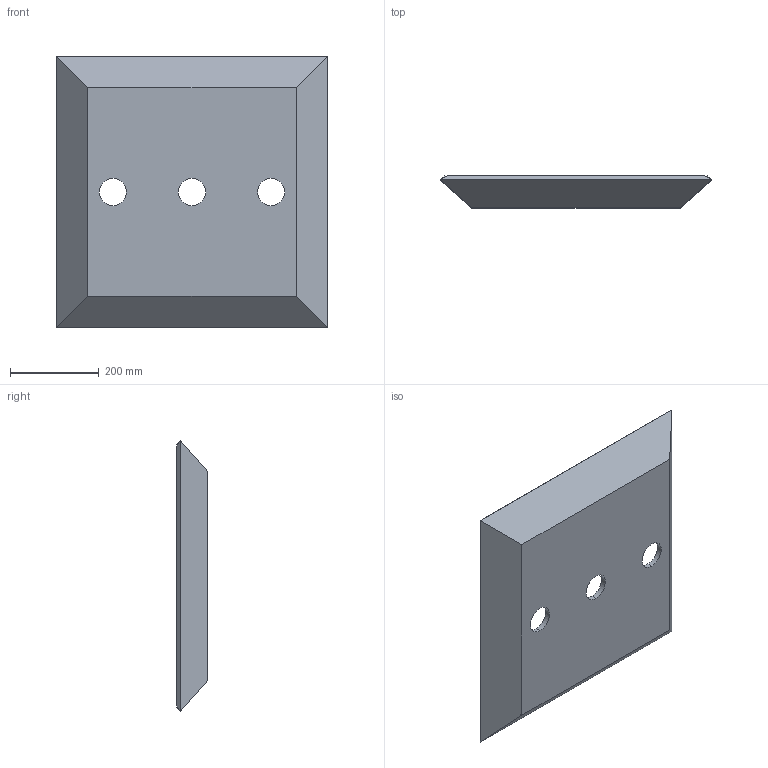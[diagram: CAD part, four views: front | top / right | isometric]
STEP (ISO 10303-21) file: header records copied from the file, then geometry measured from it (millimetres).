
FILE_DESCRIPTION (( 'STEP AP214' ), '1' );
FILE_NAME ('Spot Flood - Triple - 3 In Deep Assembly - V5.STEP', '2022-08-02T15:28:20', ( '' ), ( '' ), 'SwSTEP 2.0', 'SolidWorks 2020', '' );
FILE_SCHEMA (( 'AUTOMOTIVE_DESIGN' ));
Length unit declared in the file: inch
Products named in the file (3): 3 In Deep Extruded Tile Side - V5; Spot Flood - Triple - 3 In Deep Assembly - V5; Spot Flood - Triple - 3 In Deep Top - V5
Assembly tree (5 placements, depth 2):
  Spot Flood - Triple - 3 In Deep Assembly - V5
    Spot Flood - Triple - 3 In Deep Top - V5
    3 In Deep Extruded Tile Side - V5  x4
Bounding box: 609.6 x 71.4 x 609.6 mm (x, y, z)
Volume: 4662940.6 mm3; surface area: 886954.4 mm2
Topology: 5 solids, 5 shells, 36 faces, 78 edges, 52 vertices
Faces by surface type: plane 30, cylinder 6
Entity records: 678 total; most frequent: DIRECTION 106, CARTESIAN_POINT 96, ORIENTED_EDGE 84, EDGE_CURVE 42, AXIS2_PLACEMENT_3D 38, LINE 30, VECTOR 30, VERTEX_POINT 28
